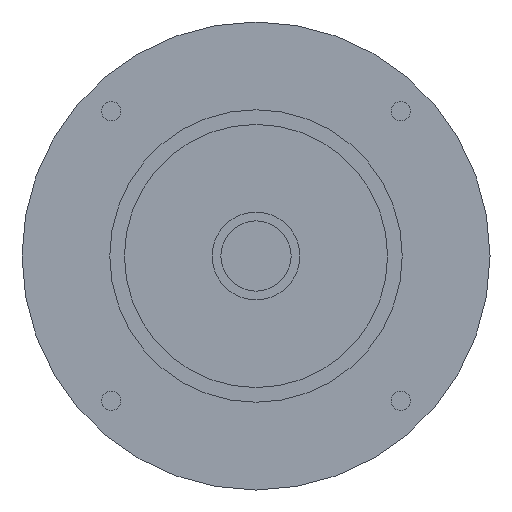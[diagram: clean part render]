
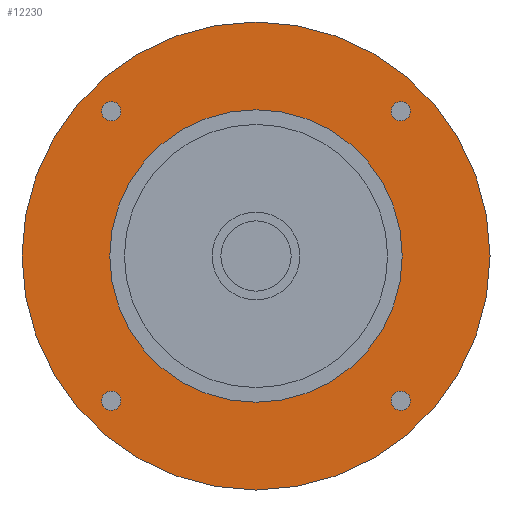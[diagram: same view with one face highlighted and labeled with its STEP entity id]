
A CAD part, left-side view. The second image highlights one B-rep face of the part: STEP entity #12230.
In plain terms, the highlighted planar face has unit normal (-1, 0, 0) as drawn and (0, 0, -1) by its records, which use the part's own axes.
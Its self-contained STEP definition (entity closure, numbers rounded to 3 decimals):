
#8640=CARTESIAN_POINT('',(-26.399,24.749,-42.2));
#8650=VERTEX_POINT('',#8640);
#8830=CARTESIAN_POINT('',(-23.099,24.749,-42.2));
#8840=VERTEX_POINT('',#8830);
#8870=CARTESIAN_POINT('',(-24.749,24.749,-42.2));
#8880=DIRECTION('',(0.,0.,-1.));
#8890=DIRECTION('',(1.,0.,0.));
#8900=AXIS2_PLACEMENT_3D('',#8870,#8880,#8890);
#8910=CIRCLE('',#8900,1.65);
#8920=EDGE_CURVE('',#8650,#8840,#8910,.T.);
#9060=CARTESIAN_POINT('',(23.099,24.749,-42.2));
#9070=VERTEX_POINT('',#9060);
#9250=CARTESIAN_POINT('',(26.399,24.749,-42.2));
#9260=VERTEX_POINT('',#9250);
#9290=CARTESIAN_POINT('',(24.749,24.749,-42.2));
#9300=DIRECTION('',(0.,0.,-1.));
#9310=DIRECTION('',(1.,0.,0.));
#9320=AXIS2_PLACEMENT_3D('',#9290,#9300,#9310);
#9330=CIRCLE('',#9320,1.65);
#9340=EDGE_CURVE('',#9070,#9260,#9330,.T.);
#11350=CARTESIAN_POINT('',(-40.,0.,-42.2));
#11360=VERTEX_POINT('',#11350);
#11390=CARTESIAN_POINT('',(0.,0.,
-42.2));
#11400=DIRECTION('',(0.,0.,-1.));
#11410=DIRECTION('',(1.,0.,0.));
#11420=AXIS2_PLACEMENT_3D('',#11390,#11400,#11410);
#11430=CIRCLE('',#11420,40.);
#11440=CARTESIAN_POINT('',(40.,0.,-42.2));
#11450=VERTEX_POINT('',#11440);
#11460=EDGE_CURVE('',#11360,#11450,#11430,.T.);
#11580=CARTESIAN_POINT('',(0.,0.,
-42.2));
#11590=DIRECTION('',(0.,0.,1.));
#11600=DIRECTION('',(1.,0.,0.));
#11610=AXIS2_PLACEMENT_3D('',#11580,#11590,#11600);
#11620=PLANE('',#11610);
#11630=CARTESIAN_POINT('',(24.749,-24.749,-42.2));
#11640=DIRECTION('',(0.,0.,-1.));
#11650=DIRECTION('',(1.,0.,0.));
#11660=AXIS2_PLACEMENT_3D('',#11630,#11640,#11650);
#11670=CIRCLE('',#11660,1.65);
#11680=CARTESIAN_POINT('',(26.399,-24.749,-42.2));
#11690=VERTEX_POINT('',#11680);
#11700=CARTESIAN_POINT('',(23.099,-24.749,-42.2));
#11710=VERTEX_POINT('',#11700);
#11720=EDGE_CURVE('',#11690,#11710,#11670,.T.);
#11730=ORIENTED_EDGE('',*,*,#11720,.F.);
#11740=EDGE_CURVE('',#11710,#11690,#11670,.T.);
#11750=ORIENTED_EDGE('',*,*,#11740,.F.);
#11760=EDGE_LOOP('',(#11750,#11730));
#11770=FACE_BOUND('',#11760,.T.);
#11780=CARTESIAN_POINT('',(0.,0.,
-42.2));
#11790=DIRECTION('',(0.,0.,1.));
#11800=DIRECTION('',(-1.,0.,0.));
#11810=AXIS2_PLACEMENT_3D('',#11780,#11790,#11800);
#11820=CIRCLE('',#11810,25.);
#11830=CARTESIAN_POINT('',(-25.,0.,-42.2));
#11840=VERTEX_POINT('',#11830);
#11850=CARTESIAN_POINT('',(25.,0.,-42.2));
#11860=VERTEX_POINT('',#11850);
#11870=EDGE_CURVE('',#11840,#11860,#11820,.T.);
#11880=ORIENTED_EDGE('',*,*,#11870,.T.);
#11890=EDGE_CURVE('',#11860,#11840,#11820,.T.);
#11900=ORIENTED_EDGE('',*,*,#11890,.T.);
#11910=EDGE_LOOP('',(#11900,#11880));
#11920=FACE_BOUND('',#11910,.T.);
#11930=CARTESIAN_POINT('',(-24.749,-24.749,-42.2));
#11940=DIRECTION('',(0.,0.,-1.));
#11950=DIRECTION('',(1.,0.,0.));
#11960=AXIS2_PLACEMENT_3D('',#11930,#11940,#11950);
#11970=CIRCLE('',#11960,1.65);
#11980=CARTESIAN_POINT('',(-23.099,-24.749,-42.2));
#11990=VERTEX_POINT('',#11980);
#12000=CARTESIAN_POINT('',(-26.399,-24.749,-42.2));
#12010=VERTEX_POINT('',#12000);
#12020=EDGE_CURVE('',#11990,#12010,#11970,.T.);
#12030=ORIENTED_EDGE('',*,*,#12020,.F.);
#12040=EDGE_CURVE('',#12010,#11990,#11970,.T.);
#12050=ORIENTED_EDGE('',*,*,#12040,.F.);
#12060=EDGE_LOOP('',(#12050,#12030));
#12070=FACE_BOUND('',#12060,.T.);
#12080=EDGE_CURVE('',#8840,#8650,#8910,.T.);
#12090=ORIENTED_EDGE('',*,*,#12080,.F.);
#12100=ORIENTED_EDGE('',*,*,#8920,.F.);
#12110=EDGE_LOOP('',(#12100,#12090));
#12120=FACE_BOUND('',#12110,.T.);
#12130=EDGE_CURVE('',#9260,#9070,#9330,.T.);
#12140=ORIENTED_EDGE('',*,*,#12130,.F.);
#12150=ORIENTED_EDGE('',*,*,#9340,.F.);
#12160=EDGE_LOOP('',(#12150,#12140));
#12170=FACE_BOUND('',#12160,.T.);
#12180=EDGE_CURVE('',#11450,#11360,#11430,.T.);
#12190=ORIENTED_EDGE('',*,*,#12180,.T.);
#12200=ORIENTED_EDGE('',*,*,#11460,.T.);
#12210=EDGE_LOOP('',(#12200,#12190));
#12220=FACE_OUTER_BOUND('',#12210,.T.);
#12230=ADVANCED_FACE('',(#11770,#11920,#12070,#12120,#12170,#12220),
#11620,.F.);
